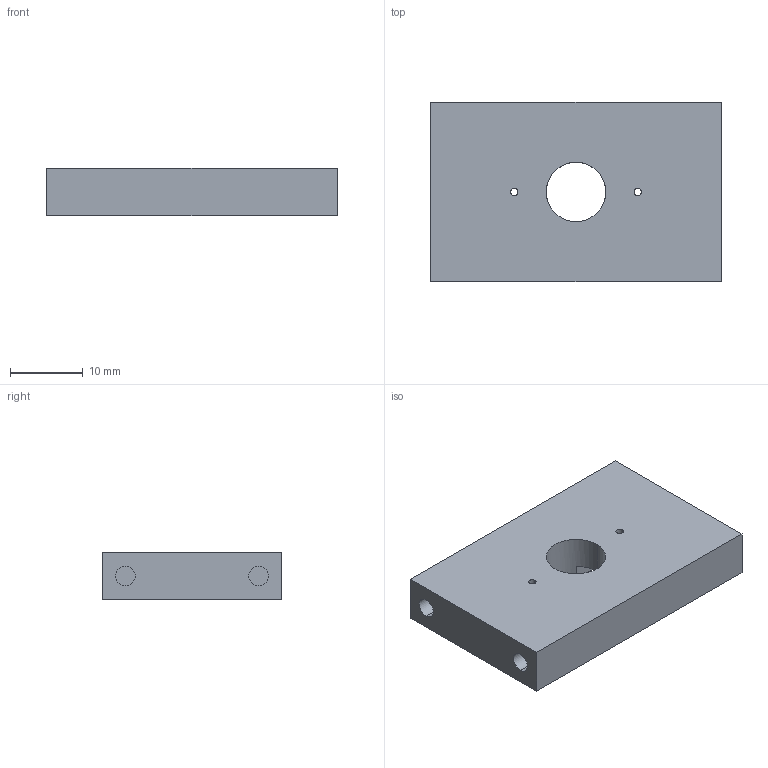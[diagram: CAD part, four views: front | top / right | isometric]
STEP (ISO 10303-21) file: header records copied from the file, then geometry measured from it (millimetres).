
FILE_DESCRIPTION (( 'STEP AP203' ), '1' );
FILE_NAME ('Arm^no horni bot.STEP', '2024-12-26T18:55:57', ( '' ), ( '' ), 'SwSTEP 2.0', 'SolidWorks 2019', '' );
FILE_SCHEMA (( 'CONFIG_CONTROL_DESIGN' ));
Length unit declared in the file: millimetre
Products named in the file (1): Arm^no horni bot
Bounding box: 40 x 24.71 x 6.54 mm (x, y, z)
Volume: 5438.4 mm3; surface area: 3615.7 mm2
Topology: 1 solids, 1 shells, 28 faces, 72 edges, 48 vertices
Faces by surface type: plane 15, cylinder 13
Entity records: 955 total; most frequent: DIRECTION 160, CARTESIAN_POINT 149, ORIENTED_EDGE 144, EDGE_CURVE 72, AXIS2_PLACEMENT_3D 59, VERTEX_POINT 48, VECTOR 42, LINE 42
